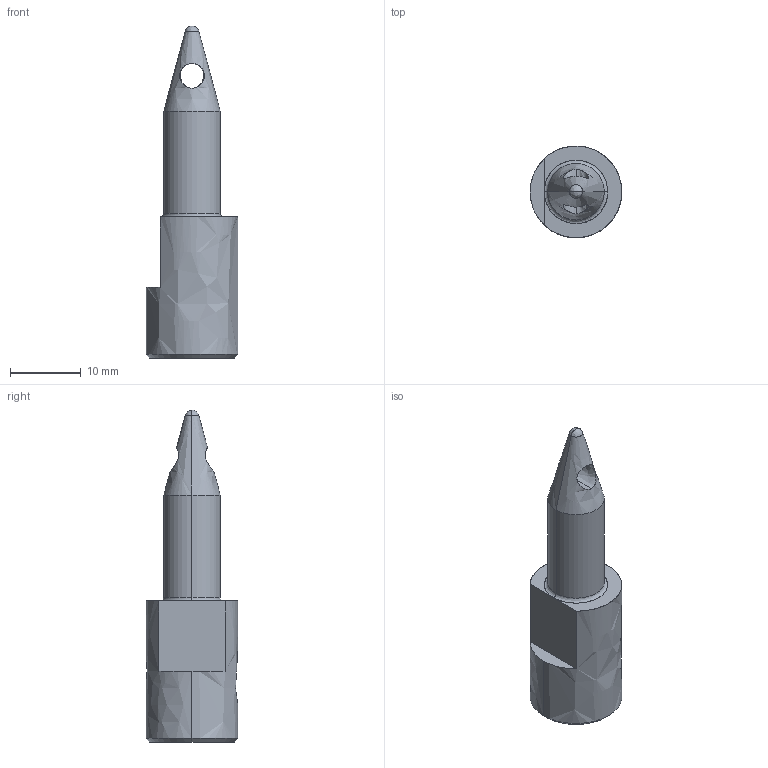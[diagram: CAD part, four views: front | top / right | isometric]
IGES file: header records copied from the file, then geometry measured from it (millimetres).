
Global section: file name: E:\UnigraphicsGraphicData\MISUMI_PRESS-PARTS\IGES\3d_sdklh13-p8.00-b15_02963_r00.igs; native system: NX V5.0; preprocessor: UGS NX IGES V5.0; author: MISUMI; date: 20110105.162516; units: millimetre
Bounding box: 13 x 13 x 47.06 mm (x, y, z)
Surface area: 1598.8 mm2 (no closed solid volume)
Topology: 0 solids, 0 shells, 18 faces, 121 edges, 119 vertices
Faces by surface type: bspline 18
